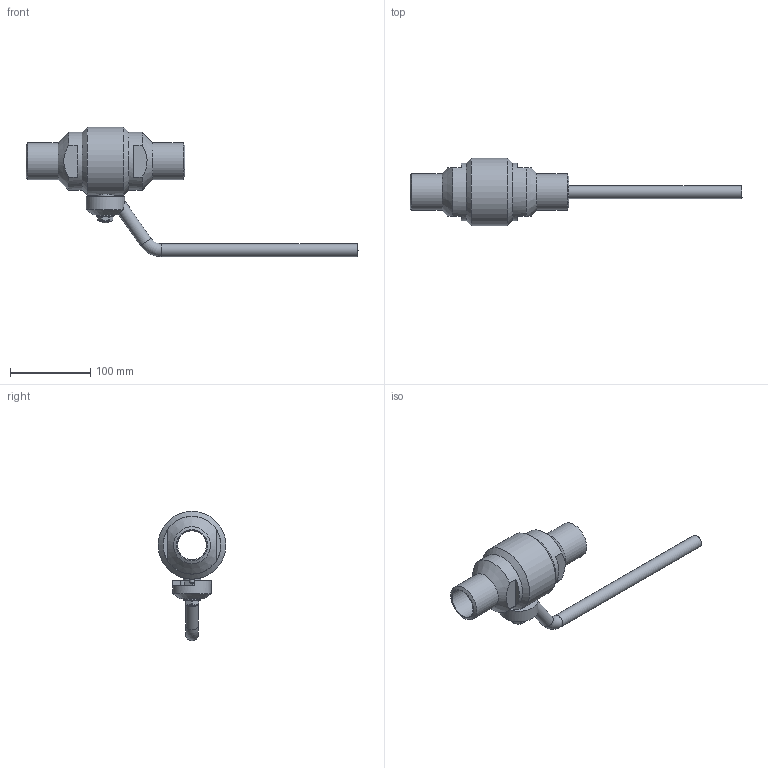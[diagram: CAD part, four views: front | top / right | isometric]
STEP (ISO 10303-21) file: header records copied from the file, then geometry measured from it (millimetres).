
FILE_DESCRIPTION(('STEP AP203'), '1');
FILE_NAME('ZARD 040.016.40.P.stp', '2013-12-06T07:04:11', ('Øèøêî'), ('Ýíåðïðåä ßðäîñ'), 'ASCON STEP Converter 1.3', 'Kompas 3D', '');
FILE_SCHEMA(('CONFIG_CONTROL_DESIGN','SUPPORT_RESOURCE_SCHEMA'));
Length unit declared in the file: millimetre
Products named in the file (1): 117
Bounding box: 414.01 x 84.5 x 161.25 mm (x, y, z)
Volume: 498316.4 mm3; surface area: 98352.9 mm2
Topology: 1 solids, 2 shells, 157 faces, 373 edges, 232 vertices
Faces by surface type: plane 78, cylinder 49, cone 22, torus 8
Full cylindrical faces by diameter (mm): 6 x1, 10 x2, 16 x3, 16.1 x1, 21.8 x1, 22 x2, 24.3 x1, 24.5 x1, 36 x2, 37 x2, 46 x2, 48 x1, 58.4 x1, 72 x2, 84.5 x1
Entity records: 6076 total; most frequent: CARTESIAN_POINT 2328, DIRECTION 787, ORIENTED_EDGE 746, EDGE_CURVE 373, AXIS2_PLACEMENT_3D 301, VERTEX_POINT 232, LINE 185, VECTOR 185
